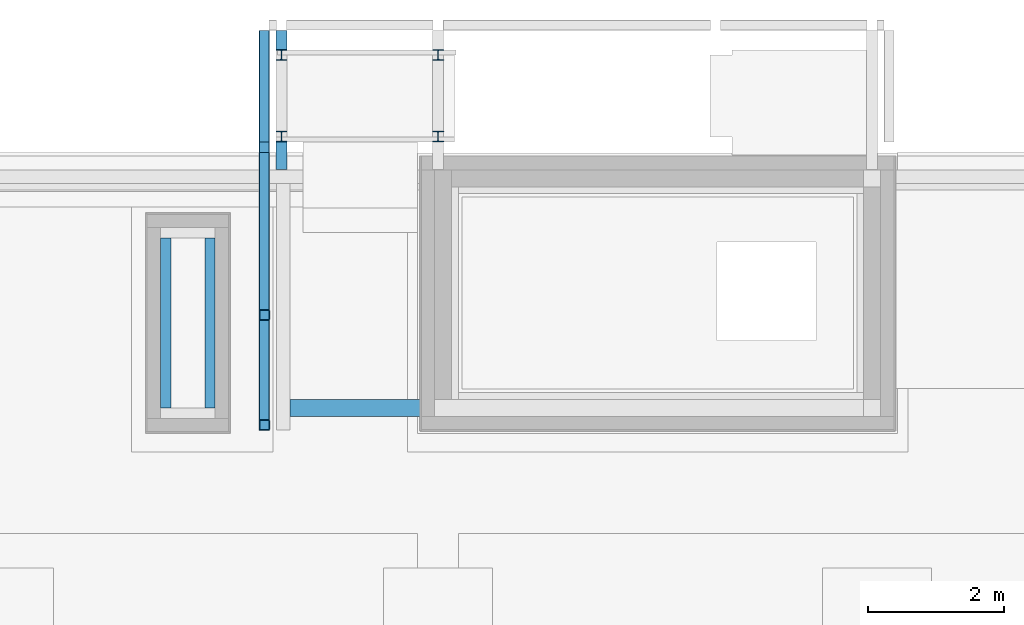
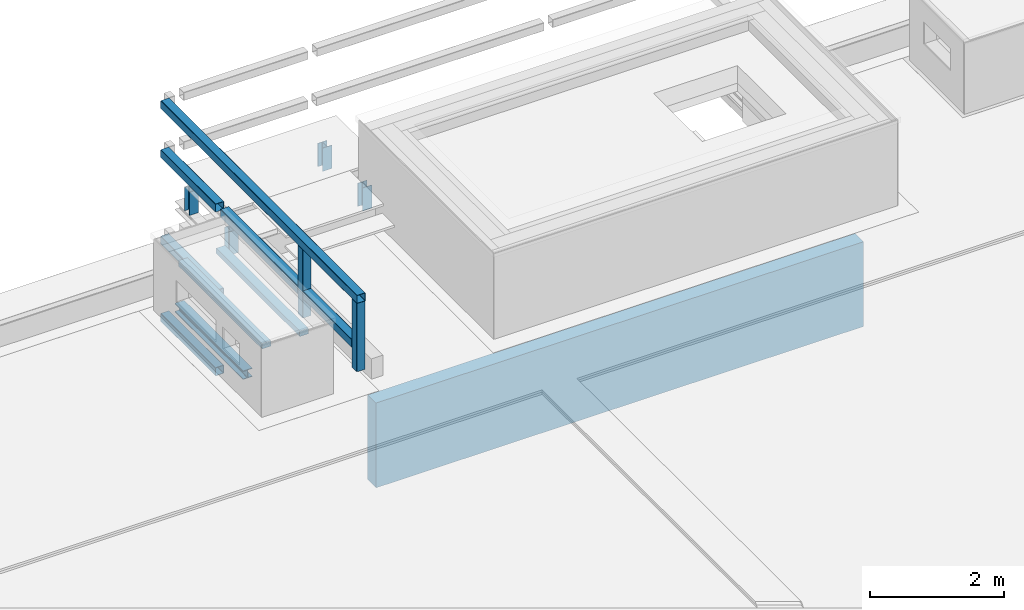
# One storey, part 1 of 8: 10 beams, 6 columns.
"""IFC2X3 building model written with IfcOpenShell, lengths in centimetres."""

from ifc_helpers import new_model, entity, si_unit, converted_unit, derived_unit, direction, frame, frame_2d, origin, place, context, subcontext, project, spatial, polyline, circle_curve, parameter, trimmed, segment, composite_curve, rectangle, i_section, outline, extrude, source, transform, mapped, material, type_object, type_shapes, element, save


model = new_model("IFC2X3")

# Units and contexts
model_context = context("Model", 3, precision=0.001, world=origin(), true_north=direction((6.12303176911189e-17, 1.0)))
body_context = subcontext(model_context, "Body", "Model", "MODEL_VIEW")
ifc_project = project(units=[si_unit("LENGTHUNIT", "METRE", prefix="CENTI"), si_unit("AREAUNIT", "SQUARE_METRE"), si_unit("VOLUMEUNIT", "CUBIC_METRE"), converted_unit("PLANEANGLEUNIT", "DEGREE", entity("IfcRatioMeasure", 0.0174532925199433), si_unit("PLANEANGLEUNIT", "RADIAN"), dimensions=[0, 0, 0, 0, 0, 0, 0]), si_unit("MASSUNIT", "GRAM", prefix="KILO"), derived_unit("MASSDENSITYUNIT", [(si_unit("MASSUNIT", "GRAM", prefix="KILO"), 1), (si_unit("LENGTHUNIT", "METRE"), -3)]), derived_unit("MOMENTOFINERTIAUNIT", [(si_unit("LENGTHUNIT", "METRE"), 4)]), si_unit("TIMEUNIT", "SECOND"), si_unit("FREQUENCYUNIT", "HERTZ"), si_unit("THERMODYNAMICTEMPERATUREUNIT", "DEGREE_CELSIUS"), derived_unit("THERMALTRANSMITTANCEUNIT", [(si_unit("MASSUNIT", "GRAM", prefix="KILO"), 1), (si_unit("THERMODYNAMICTEMPERATUREUNIT", "KELVIN"), -1), (si_unit("TIMEUNIT", "SECOND"), -3)]), derived_unit("VOLUMETRICFLOWRATEUNIT", [(si_unit("LENGTHUNIT", "METRE"), 3), (si_unit("TIMEUNIT", "SECOND"), -1)]), si_unit("ELECTRICCURRENTUNIT", "AMPERE"), si_unit("ELECTRICVOLTAGEUNIT", "VOLT"), si_unit("POWERUNIT", "WATT"), si_unit("FORCEUNIT", "NEWTON", prefix="KILO"), si_unit("ILLUMINANCEUNIT", "LUX"), si_unit("LUMINOUSFLUXUNIT", "LUMEN"), si_unit("LUMINOUSINTENSITYUNIT", "CANDELA"), derived_unit("USERDEFINED", [(si_unit("MASSUNIT", "GRAM", prefix="KILO"), -1), (si_unit("LENGTHUNIT", "METRE"), -2), (si_unit("TIMEUNIT", "SECOND"), 3), (si_unit("LUMINOUSFLUXUNIT", "LUMEN"), 1)]), derived_unit("LINEARVELOCITYUNIT", [(si_unit("LENGTHUNIT", "METRE"), 1), (si_unit("TIMEUNIT", "SECOND"), -1)]), si_unit("PRESSUREUNIT", "PASCAL"), derived_unit("USERDEFINED", [(si_unit("LENGTHUNIT", "METRE"), -2), (si_unit("MASSUNIT", "GRAM", prefix="KILO"), 1), (si_unit("TIMEUNIT", "SECOND"), -2)]), derived_unit("LINEARFORCEUNIT", [(si_unit("MASSUNIT", "GRAM", prefix="KILO"), 1), (si_unit("LENGTHUNIT", "METRE"), 1), (si_unit("TIMEUNIT", "SECOND"), -2), (si_unit("LENGTHUNIT", "METRE"), -1)]), derived_unit("PLANARFORCEUNIT", [(si_unit("MASSUNIT", "GRAM", prefix="KILO"), 1), (si_unit("LENGTHUNIT", "METRE"), 1), (si_unit("TIMEUNIT", "SECOND"), -2), (si_unit("LENGTHUNIT", "METRE"), -2)])], contexts=[model_context])

# Site, building, storey
site_placement = place(None, origin())
site = spatial("IfcSite", under=ifc_project, at=site_placement, Name="Default", CompositionType="ELEMENT")
building_placement = place(site_placement, origin())
building = spatial("IfcBuilding", under=site, at=building_placement, CompositionType="ELEMENT")
storey_placement = place(building_placement, frame((0.0, 0.0, 970.0)))
storey = spatial("IfcBuildingStorey", under=building, at=storey_placement, Name="Poziom 2K +9,70", CompositionType="ELEMENT", Elevation=970.0)

# Columns
ifc_material_1 = material(Name="Metal — stal — Stal")
column_type_1 = type_object("IfcColumnType", Name="STAL RK - Ksztaltowniki zamkniete kwadratowe_Słup:RK150x6", PredefinedType="COLUMN", material=ifc_material_1)
shared_shape_1 = source(origin(), body_context, "Body", "SweptSolid", [
    extrude(outline(composite_curve([segment(polyline([(-6.29999999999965, -7.50000000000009), (6.29999999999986, -7.50000000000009)]), True, "CONTINUOUS"), segment(trimmed(circle_curve(frame_2d((6.29999999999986, -6.29999999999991), x_axis=(1.0, 0.0)), 1.20000000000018), [parameter(270.0)], [parameter(360.0)], True, "PARAMETER"), True, "CONTINUOUS"), segment(polyline([(7.50000000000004, -6.29999999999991), (7.50000000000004, 6.29999999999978)]), True, "CONTINUOUS"), segment(trimmed(circle_curve(frame_2d((6.29999999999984, 6.29999999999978), x_axis=(1.0, 0.0)), 1.2000000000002), [parameter(360.0)], [parameter(89.9999999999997)], True, "PARAMETER"), True, "CONTINUOUS"), segment(polyline([(6.29999999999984, 7.49999999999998), (-6.30000000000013, 7.49999999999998)]), True, "CONTINUOUS"), segment(trimmed(circle_curve(frame_2d((-6.30000000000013, 6.30000000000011), x_axis=(1.0, 0.0)), 1.19999999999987), [parameter(89.9999999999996)], [parameter(180.0)], True, "PARAMETER"), True, "CONTINUOUS"), segment(polyline([(-7.5, 6.30000000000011), (-7.5, -6.29999999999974)]), True, "CONTINUOUS"), segment(trimmed(circle_curve(frame_2d((-6.29999999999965, -6.29999999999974), x_axis=(1.0, 0.0)), 1.20000000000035), [parameter(180.0)], [parameter(269.999999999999)], True, "PARAMETER"), True, "CONTINUOUS")], self_intersect=False), holes=[composite_curve([segment(trimmed(circle_curve(frame_2d((-6.30000000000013, 6.29999999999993), x_axis=(1.0, 0.0)), 0.599999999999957), [parameter(90.0000000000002)], [parameter(180.0)], True, "PARAMETER"), False, "CONTINUOUS"), segment(polyline([(-6.30000000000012, 6.89999999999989), (6.29999999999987, 6.89999999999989)]), True, "CONTINUOUS"), segment(trimmed(circle_curve(frame_2d((6.29999999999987, 6.29999999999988), x_axis=(1.0, 0.0)), 0.600000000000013), [parameter(359.999999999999)], [parameter(89.9999999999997)], True, "PARAMETER"), False, "CONTINUOUS"), segment(polyline([(6.89999999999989, 6.29999999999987), (6.89999999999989, -6.30000000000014)]), True, "CONTINUOUS"), segment(trimmed(circle_curve(frame_2d((6.2999999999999, -6.30000000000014), x_axis=(1.0, 0.0)), 0.599999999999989), [parameter(269.999999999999)], [parameter(360.0)], True, "PARAMETER"), False, "CONTINUOUS"), segment(polyline([(6.29999999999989, -6.90000000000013), (-6.3000000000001, -6.90000000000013)]), True, "CONTINUOUS"), segment(trimmed(circle_curve(frame_2d((-6.3000000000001, -6.30000000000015), x_axis=(1.0, 0.0)), 0.599999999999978), [parameter(180.0)], [parameter(270.0)], True, "PARAMETER"), False, "CONTINUOUS"), segment(polyline([(-6.90000000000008, -6.30000000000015), (-6.90000000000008, 6.29999999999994)]), True, "CONTINUOUS")], self_intersect=False)]), frame((0.0, 0.0, 1020.0)), (0.0, 0.0, 1.0), 125.0),
])
type_shapes(column_type_1, [shared_shape_1])
for number, where in (
    (1, (-1234.26501886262, 1891.95818451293, -970.0)),
    (2, (-1234.26501886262, 1730.45818451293, -970.0)),
):
    element("IfcColumn", number, at=place(storey_placement, frame(where)), inside=storey, type_object=column_type_1, material=ifc_material_1, Name="STAL RK - Ksztaltowniki zamkniete kwadratowe_Słup:RK150x6", ObjectType="STAL RK - Ksztaltowniki zamkniete kwadratowe_Słup:RK150x6", context=body_context, shape_type="MappedRepresentation", body=[
        mapped(shared_shape_1, transform((0.0, 0.0, 0.0), scale=1.0)),
    ])
column_type_2 = type_object("IfcColumnType", Name="Słup HE-A:HEA160", PredefinedType="COLUMN", material=ifc_material_1)
shared_shape_2 = source(origin(), body_context, "Body", "SweptSolid", [
    extrude(outline(composite_curve([segment(polyline([(6.7, -8.0), (7.6, -8.0)]), True, "CONTINUOUS"), segment(polyline([(7.6, -8.0), (7.6, 8.0)]), True, "CONTINUOUS"), segment(polyline([(7.6, 8.0), (6.7, 8.0)]), True, "CONTINUOUS"), segment(polyline([(6.7, 8.0), (6.7, 1.8)]), True, "CONTINUOUS"), segment(trimmed(circle_curve(frame_2d((5.2, 1.8), x_axis=(1.0, 0.0)), 1.5), [parameter(270.0)], [parameter(0.0)], True, "PARAMETER"), False, "CONTINUOUS"), segment(polyline([(5.2, 0.3), (-5.2, 0.3)]), True, "CONTINUOUS"), segment(trimmed(circle_curve(frame_2d((-5.2, 1.8), x_axis=(0.0, -1.0)), 1.5), [parameter(270.0)], [parameter(0.0)], True, "PARAMETER"), False, "CONTINUOUS"), segment(polyline([(-6.7, 1.8), (-6.7, 8.0)]), True, "CONTINUOUS"), segment(polyline([(-6.7, 8.0), (-7.6, 8.0)]), True, "CONTINUOUS"), segment(polyline([(-7.6, 8.0), (-7.6, -8.0)]), True, "CONTINUOUS"), segment(polyline([(-7.6, -8.0), (-6.7, -8.0)]), True, "CONTINUOUS"), segment(polyline([(-6.7, -8.0), (-6.7, -1.8)]), True, "CONTINUOUS"), segment(trimmed(circle_curve(frame_2d((-5.2, -1.8), x_axis=(-1.0, 0.0)), 1.5), [parameter(270.0)], [parameter(0.0)], True, "PARAMETER"), False, "CONTINUOUS"), segment(polyline([(-5.2, -0.299999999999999), (5.2, -0.299999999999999)]), True, "CONTINUOUS"), segment(trimmed(circle_curve(frame_2d((5.2, -1.8), x_axis=(0.0, 1.0)), 1.5), [parameter(270.0)], [parameter(0.0)], True, "PARAMETER"), False, "CONTINUOUS"), segment(polyline([(6.7, -1.8), (6.7, -8.0)]), True, "CONTINUOUS")], self_intersect=False)), frame((0.0, 0.0, 967.6), z_axis=(0.0, 0.0, 1.0), x_axis=(0.0, -1.0, 0.0)), (0.0, 0.0, 1.0), 42.4000000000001),
])
type_shapes(column_type_2, [shared_shape_2])
for number, where in (
    (3, (-1209.22475324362, 2273.8124511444, -970.0)),
    (4, (-1209.22475324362, 2154.0124511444, -970.0)),
    (5, (-979.094309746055, 2273.8124511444, -970.0)),
    (6, (-979.094309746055, 2154.0124511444, -970.0)),
):
    element("IfcColumn", number, at=place(storey_placement, frame(where)), inside=storey, type_object=column_type_2, Name="Słup HE-A:HEA160", ObjectType="Słup HE-A:HEA160", context=body_context, shape_type="MappedRepresentation", body=[
        mapped(shared_shape_2, transform((0.0, 0.0, 0.0), scale=1.0)),
    ])

# Beams
ifc_material_2 = material(Name="_Beton C30/37")
beam_type_1 = type_object("IfcBeamType", Name="Beton-belka prostokątna:BELKA 190x25", PredefinedType="NOTDEFINED")
beam_1_placement = place(storey_placement, frame((-1209.2650935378, 1755.62745161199, 0.0)))
element("IfcBeam", 7, at=beam_1_placement, inside=storey, type_object=beam_type_1, material=ifc_material_2, Name="Beton-belka prostokątna:BELKA 190x25", ObjectType="Beton-belka prostokątna:BELKA 190x25", context=body_context, shape_type="SweptSolid", body=[
    extrude(rectangle(XDim=155.0, YDim=25.000000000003, at=frame_2d((0.0, 8.66862137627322e-13), x_axis=(1.0, 0.0))), frame((12.4999999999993, 0.0, -112.5), z_axis=(1.0, 0.0, 0.0), x_axis=(0.0, 0.0, -1.0)), (0.0, 0.0, 1.0), 842.262041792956),
])
beam_type_2 = type_object("IfcBeamType", Name="Beton-belka prostokątna:wieniec 10x15", PredefinedType="NOTDEFINED")
for number, where, z_axis, x_axis in (
    (8, (-1114.26517166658, 1755.12745205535, -142.0), (0.0, 0.0, 1.0), (0.0, 1.0, 0.0)),
    (9, (-1049.26511325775, 1755.12745205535, -142.0), (0.0, 0.0, 1.0), (0.0, 1.0, 0.0)),
):
    element("IfcBeam", number, at=place(storey_placement, frame(where, z_axis=z_axis, x_axis=x_axis)), inside=storey, type_object=beam_type_2, material=ifc_material_2, Name="Beton-belka prostokątna:wieniec 10x15", ObjectType="Beton-belka prostokątna:wieniec 10x15", context=body_context, shape_type="SweptSolid", body=[
        extrude(rectangle(XDim=10.0000000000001, YDim=15.0000000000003, at=frame_2d((-1.08357767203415e-13, 2.16715534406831e-13), x_axis=(1.0, 0.0))), frame((0.0, 265.0, 270.0), z_axis=(1.0, 0.0, 0.0), x_axis=(0.0, 0.0, -1.0)), (0.0, 0.0, 1.0), 250.000146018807),
    ])
ifc_material_3 = material(Name="Stal konstrukcyjna - S235")
beam_type_3 = type_object("IfcBeamType", Name="STAL RK - Ksztaltowniki zamkniete kwadratowe:RK150x6", PredefinedType="NOTDEFINED")
beam_2_placement = place(storey_placement, frame((-1234.15433612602, 2309.95606606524, -199.0), z_axis=(0.0, 0.0, 1.0), x_axis=(0.0, -1.0, 0.0)))
element("IfcBeam", 10, at=beam_2_placement, inside=storey, type_object=beam_type_3, material=ifc_material_3, Name="STAL RK - Ksztaltowniki zamkniete kwadratowe:RK150x6", ObjectType="STAL RK - Ksztaltowniki zamkniete kwadratowe:RK150x6", context=body_context, shape_type="SweptSolid", body=[
    extrude(outline(composite_curve([segment(trimmed(circle_curve(frame_2d((-6.30000000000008, -6.30000000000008), x_axis=(1.0, 0.0)), 1.2), [parameter(180.0)], [parameter(270.0)], True, "PARAMETER"), True, "CONTINUOUS"), segment(polyline([(-6.29999999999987, -7.50000000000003), (6.30000000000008, -7.50000000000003)]), True, "CONTINUOUS"), segment(trimmed(circle_curve(frame_2d((6.29999999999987, -6.30000000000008), x_axis=(1.0, 0.0)), 1.19999999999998), [parameter(270.0)], [parameter(360.0)], True, "PARAMETER"), True, "CONTINUOUS"), segment(polyline([(7.50000000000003, -6.30000000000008), (7.50000000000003, 6.29999999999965)]), True, "CONTINUOUS"), segment(trimmed(circle_curve(frame_2d((6.29999999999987, 6.29999999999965), x_axis=(1.0, 0.0)), 1.20000000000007), [parameter(360.0)], [parameter(89.9999999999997)], True, "PARAMETER"), True, "CONTINUOUS"), segment(polyline([(6.29999999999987, 7.4999999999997), (-6.30000000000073, 7.4999999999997)]), True, "CONTINUOUS"), segment(trimmed(circle_curve(frame_2d((-6.30000000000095, 6.30000000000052), x_axis=(1.0, 0.0)), 1.19999999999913), [parameter(89.9999999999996)], [parameter(179.999999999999)], True, "PARAMETER"), True, "CONTINUOUS"), segment(polyline([(-7.50000000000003, 6.30000000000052), (-7.50000000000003, -6.30000000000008)]), True, "CONTINUOUS")], self_intersect=False), holes=[composite_curve([segment(polyline([(-6.89999999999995, -6.30000000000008), (-6.89999999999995, 6.30000000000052)]), True, "CONTINUOUS"), segment(trimmed(circle_curve(frame_2d((-6.30000000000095, 6.30000000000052), x_axis=(1.0, 0.0)), 0.59999999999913), [parameter(90.0000000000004)], [parameter(180.0)], True, "PARAMETER"), False, "CONTINUOUS"), segment(polyline([(-6.30000000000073, 6.89999999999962), (6.29999999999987, 6.89999999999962)]), True, "CONTINUOUS"), segment(trimmed(circle_curve(frame_2d((6.29999999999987, 6.29999999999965), x_axis=(1.0, 0.0)), 0.600000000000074), [parameter(4.07110999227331e-13)], [parameter(90.0000000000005)], True, "PARAMETER"), False, "CONTINUOUS"), segment(polyline([(6.89999999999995, 6.29999999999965), (6.89999999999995, -6.30000000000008)]), True, "CONTINUOUS"), segment(trimmed(circle_curve(frame_2d((6.29999999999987, -6.30000000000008), x_axis=(1.0, 0.0)), 0.59999999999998), [parameter(270.0)], [parameter(5.08888749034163e-13)], True, "PARAMETER"), False, "CONTINUOUS"), segment(polyline([(6.30000000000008, -6.90000000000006), (-6.29999999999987, -6.90000000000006)]), True, "CONTINUOUS"), segment(trimmed(circle_curve(frame_2d((-6.30000000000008, -6.30000000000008), x_axis=(1.0, 0.0)), 0.600000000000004), [parameter(180.0)], [parameter(270.0)], True, "PARAMETER"), False, "CONTINUOUS")], self_intersect=False)]), frame((0.0436149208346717, -0.26000000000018, -7.50000000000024), z_axis=(1.0, 0.0, 0.0), x_axis=(0.0, -1.0, 0.0)), (0.0, 0.0, 1.0), 164.0),
])
beam_3_placement = place(storey_placement, frame((-1234.15433612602, 2309.95606606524, -57.9999979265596), z_axis=(0.0, 0.0, 1.0), x_axis=(0.0, -1.0, 0.0)))
element("IfcBeam", 11, at=beam_3_placement, inside=storey, type_object=beam_type_3, material=ifc_material_3, Name="STAL RK - Ksztaltowniki zamkniete kwadratowe:RK150x6", ObjectType="STAL RK - Ksztaltowniki zamkniete kwadratowe:RK150x6", context=body_context, shape_type="SweptSolid", body=[
    extrude(outline(composite_curve([segment(trimmed(circle_curve(frame_2d((-6.30000000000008, -6.29999999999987), x_axis=(1.0, 0.0)), 1.2), [parameter(180.0)], [parameter(270.0)], True, "PARAMETER"), True, "CONTINUOUS"), segment(polyline([(-6.29999999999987, -7.49999999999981), (6.30000000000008, -7.49999999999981)]), True, "CONTINUOUS"), segment(trimmed(circle_curve(frame_2d((6.29999999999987, -6.29999999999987), x_axis=(1.0, 0.0)), 1.19999999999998), [parameter(270.0)], [parameter(360.0)], True, "PARAMETER"), True, "CONTINUOUS"), segment(polyline([(7.50000000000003, -6.29999999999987), (7.50000000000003, 6.29999999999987)]), True, "CONTINUOUS"), segment(trimmed(circle_curve(frame_2d((6.29999999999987, 6.29999999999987), x_axis=(1.0, 0.0)), 1.20000000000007), [parameter(360.0)], [parameter(89.9999999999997)], True, "PARAMETER"), True, "CONTINUOUS"), segment(polyline([(6.29999999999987, 7.49999999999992), (-6.30000000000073, 7.49999999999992)]), True, "CONTINUOUS"), segment(trimmed(circle_curve(frame_2d((-6.30000000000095, 6.30000000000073), x_axis=(1.0, 0.0)), 1.19999999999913), [parameter(89.9999999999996)], [parameter(179.999999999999)], True, "PARAMETER"), True, "CONTINUOUS"), segment(polyline([(-7.50000000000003, 6.30000000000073), (-7.50000000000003, -6.29999999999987)]), True, "CONTINUOUS")], self_intersect=False), holes=[composite_curve([segment(polyline([(-6.89999999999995, -6.29999999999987), (-6.89999999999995, 6.30000000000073)]), True, "CONTINUOUS"), segment(trimmed(circle_curve(frame_2d((-6.30000000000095, 6.30000000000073), x_axis=(1.0, 0.0)), 0.59999999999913), [parameter(90.0000000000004)], [parameter(180.0)], True, "PARAMETER"), False, "CONTINUOUS"), segment(polyline([(-6.30000000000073, 6.89999999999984), (6.29999999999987, 6.89999999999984)]), True, "CONTINUOUS"), segment(trimmed(circle_curve(frame_2d((6.29999999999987, 6.29999999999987), x_axis=(1.0, 0.0)), 0.600000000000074), [parameter(4.07110999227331e-13)], [parameter(90.0000000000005)], True, "PARAMETER"), False, "CONTINUOUS"), segment(polyline([(6.89999999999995, 6.29999999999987), (6.89999999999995, -6.29999999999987)]), True, "CONTINUOUS"), segment(trimmed(circle_curve(frame_2d((6.29999999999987, -6.29999999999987), x_axis=(1.0, 0.0)), 0.59999999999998), [parameter(270.0)], [parameter(5.08888749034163e-13)], True, "PARAMETER"), False, "CONTINUOUS"), segment(polyline([(6.30000000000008, -6.89999999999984), (-6.29999999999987, -6.89999999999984)]), True, "CONTINUOUS"), segment(trimmed(circle_curve(frame_2d((-6.30000000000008, -6.29999999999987), x_axis=(1.0, 0.0)), 0.600000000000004), [parameter(180.0)], [parameter(270.0)], True, "PARAMETER"), False, "CONTINUOUS")], self_intersect=False)]), frame((0.0436149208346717, -0.26000000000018, -7.50000000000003), z_axis=(1.0, 0.0, 0.0), x_axis=(0.0, -1.0, 0.0)), (0.0, 0.0, 1.0), 164.0),
])
beam_4_placement = place(storey_placement, frame((-1234.15433612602, 2309.95606606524, 100.000002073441), z_axis=(0.0, 0.0, 1.0), x_axis=(0.0, -1.0, 0.0)))
element("IfcBeam", 12, at=beam_4_placement, inside=storey, type_object=beam_type_3, material=ifc_material_3, Name="STAL RK - Ksztaltowniki zamkniete kwadratowe:RK150x6", ObjectType="STAL RK - Ksztaltowniki zamkniete kwadratowe:RK150x6", context=body_context, shape_type="SweptSolid", body=[
    extrude(outline(composite_curve([segment(trimmed(circle_curve(frame_2d((-6.30000000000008, -6.29999999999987), x_axis=(1.0, 0.0)), 1.2), [parameter(180.0)], [parameter(270.0)], True, "PARAMETER"), True, "CONTINUOUS"), segment(polyline([(-6.29999999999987, -7.50000000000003), (6.30000000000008, -7.50000000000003)]), True, "CONTINUOUS"), segment(trimmed(circle_curve(frame_2d((6.29999999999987, -6.30000000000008), x_axis=(1.0, 0.0)), 1.19999999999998), [parameter(270.0)], [parameter(360.0)], True, "PARAMETER"), True, "CONTINUOUS"), segment(polyline([(7.50000000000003, -6.30000000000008), (7.50000000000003, 6.29999999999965)]), True, "CONTINUOUS"), segment(trimmed(circle_curve(frame_2d((6.29999999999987, 6.29999999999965), x_axis=(1.0, 0.0)), 1.20000000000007), [parameter(360.0)], [parameter(89.9999999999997)], True, "PARAMETER"), True, "CONTINUOUS"), segment(polyline([(6.29999999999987, 7.49999999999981), (-6.30000000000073, 7.49999999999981)]), True, "CONTINUOUS"), segment(trimmed(circle_curve(frame_2d((-6.30000000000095, 6.30000000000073), x_axis=(1.0, 0.0)), 1.19999999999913), [parameter(89.9999999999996)], [parameter(179.999999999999)], True, "PARAMETER"), True, "CONTINUOUS"), segment(polyline([(-7.50000000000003, 6.30000000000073), (-7.50000000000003, -6.29999999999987)]), True, "CONTINUOUS")], self_intersect=False), holes=[composite_curve([segment(polyline([(-6.89999999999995, -6.29999999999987), (-6.89999999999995, 6.30000000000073)]), True, "CONTINUOUS"), segment(trimmed(circle_curve(frame_2d((-6.30000000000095, 6.30000000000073), x_axis=(1.0, 0.0)), 0.59999999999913), [parameter(90.0000000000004)], [parameter(180.0)], True, "PARAMETER"), False, "CONTINUOUS"), segment(polyline([(-6.30000000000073, 6.89999999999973), (6.29999999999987, 6.89999999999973)]), True, "CONTINUOUS"), segment(trimmed(circle_curve(frame_2d((6.29999999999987, 6.29999999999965), x_axis=(1.0, 0.0)), 0.600000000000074), [parameter(4.07110999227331e-13)], [parameter(90.0000000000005)], True, "PARAMETER"), False, "CONTINUOUS"), segment(polyline([(6.89999999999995, 6.29999999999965), (6.89999999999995, -6.30000000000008)]), True, "CONTINUOUS"), segment(trimmed(circle_curve(frame_2d((6.29999999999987, -6.30000000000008), x_axis=(1.0, 0.0)), 0.59999999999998), [parameter(270.0)], [parameter(5.08888749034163e-13)], True, "PARAMETER"), False, "CONTINUOUS"), segment(polyline([(6.30000000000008, -6.89999999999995), (-6.29999999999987, -6.89999999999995)]), True, "CONTINUOUS"), segment(trimmed(circle_curve(frame_2d((-6.30000000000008, -6.29999999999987), x_axis=(1.0, 0.0)), 0.600000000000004), [parameter(180.0)], [parameter(270.0)], True, "PARAMETER"), False, "CONTINUOUS")], self_intersect=False)]), frame((0.0436149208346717, -0.26000000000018, -7.50000000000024), z_axis=(1.0, 0.0, 0.0), x_axis=(0.0, -1.0, 0.0)), (0.0, 0.0, 1.0), 164.0),
])
beam_5_placement = place(storey_placement, frame((-1234.15433612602, 2309.41468189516, 190.0), z_axis=(0.0, 0.0, 1.0), x_axis=(0.0, -1.0, 0.0)))
element("IfcBeam", 13, at=beam_5_placement, inside=storey, type_object=beam_type_3, material=ifc_material_3, Name="STAL RK - Ksztaltowniki zamkniete kwadratowe:RK150x6", ObjectType="STAL RK - Ksztaltowniki zamkniete kwadratowe:RK150x6", context=body_context, shape_type="SweptSolid", body=[
    extrude(outline(composite_curve([segment(trimmed(circle_curve(frame_2d((-6.29999999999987, -6.29999999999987), x_axis=(1.0, 0.0)), 1.2), [parameter(180.0)], [parameter(270.0)], True, "PARAMETER"), True, "CONTINUOUS"), segment(polyline([(-6.29999999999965, -7.50000000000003), (6.3000000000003, -7.50000000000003)]), True, "CONTINUOUS"), segment(trimmed(circle_curve(frame_2d((6.30000000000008, -6.30000000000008), x_axis=(1.0, 0.0)), 1.19999999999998), [parameter(270.0)], [parameter(360.0)], True, "PARAMETER"), True, "CONTINUOUS"), segment(polyline([(7.50000000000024, -6.30000000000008), (7.50000000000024, 6.29999999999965)]), True, "CONTINUOUS"), segment(trimmed(circle_curve(frame_2d((6.30000000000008, 6.29999999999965), x_axis=(1.0, 0.0)), 1.20000000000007), [parameter(360.0)], [parameter(89.9999999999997)], True, "PARAMETER"), True, "CONTINUOUS"), segment(polyline([(6.30000000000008, 7.49999999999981), (-6.30000000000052, 7.49999999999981)]), True, "CONTINUOUS"), segment(trimmed(circle_curve(frame_2d((-6.30000000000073, 6.30000000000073), x_axis=(1.0, 0.0)), 1.19999999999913), [parameter(89.9999999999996)], [parameter(179.999999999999)], True, "PARAMETER"), True, "CONTINUOUS"), segment(polyline([(-7.49999999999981, 6.30000000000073), (-7.49999999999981, -6.29999999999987)]), True, "CONTINUOUS")], self_intersect=False), holes=[composite_curve([segment(polyline([(-6.89999999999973, -6.29999999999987), (-6.89999999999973, 6.30000000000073)]), True, "CONTINUOUS"), segment(trimmed(circle_curve(frame_2d((-6.30000000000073, 6.30000000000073), x_axis=(1.0, 0.0)), 0.59999999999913), [parameter(90.0000000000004)], [parameter(180.0)], True, "PARAMETER"), False, "CONTINUOUS"), segment(polyline([(-6.30000000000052, 6.89999999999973), (6.30000000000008, 6.89999999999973)]), True, "CONTINUOUS"), segment(trimmed(circle_curve(frame_2d((6.30000000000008, 6.29999999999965), x_axis=(1.0, 0.0)), 0.600000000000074), [parameter(4.07110999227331e-13)], [parameter(90.0000000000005)], True, "PARAMETER"), False, "CONTINUOUS"), segment(polyline([(6.90000000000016, 6.29999999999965), (6.90000000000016, -6.30000000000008)]), True, "CONTINUOUS"), segment(trimmed(circle_curve(frame_2d((6.30000000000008, -6.30000000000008), x_axis=(1.0, 0.0)), 0.59999999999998), [parameter(270.0)], [parameter(5.08888749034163e-13)], True, "PARAMETER"), False, "CONTINUOUS"), segment(polyline([(6.3000000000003, -6.89999999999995), (-6.29999999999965, -6.89999999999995)]), True, "CONTINUOUS"), segment(trimmed(circle_curve(frame_2d((-6.29999999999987, -6.29999999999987), x_axis=(1.0, 0.0)), 0.600000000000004), [parameter(180.0)], [parameter(270.0)], True, "PARAMETER"), False, "CONTINUOUS")], self_intersect=False)]), frame((0.0, -0.259999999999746, -7.50000000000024), z_axis=(1.0, 0.0, 0.0), x_axis=(0.0, -1.0, 0.0)), (0.0, 0.0, 1.0), 587.0),
])
beam_6_placement = place(storey_placement, frame((-1234.15433612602, 2130.81245114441, 100.000002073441), z_axis=(0.0, 0.0, 1.0), x_axis=(0.0, -1.0, 0.0)))
element("IfcBeam", 14, at=beam_6_placement, inside=storey, type_object=beam_type_3, material=ifc_material_3, Name="STAL RK - Ksztaltowniki zamkniete kwadratowe:RK150x6", ObjectType="STAL RK - Ksztaltowniki zamkniete kwadratowe:RK150x6", context=body_context, shape_type="SweptSolid", body=[
    extrude(outline(composite_curve([segment(trimmed(circle_curve(frame_2d((-6.29999999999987, -6.29999999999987), x_axis=(1.0, 0.0)), 1.2), [parameter(180.0)], [parameter(270.0)], True, "PARAMETER"), True, "CONTINUOUS"), segment(polyline([(-6.29999999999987, -7.50000000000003), (6.30000000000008, -7.50000000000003)]), True, "CONTINUOUS"), segment(trimmed(circle_curve(frame_2d((6.30000000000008, -6.30000000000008), x_axis=(1.0, 0.0)), 1.19999999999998), [parameter(270.0)], [parameter(360.0)], True, "PARAMETER"), True, "CONTINUOUS"), segment(polyline([(7.50000000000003, -6.30000000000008), (7.50000000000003, 6.29999999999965)]), True, "CONTINUOUS"), segment(trimmed(circle_curve(frame_2d((6.30000000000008, 6.29999999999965), x_axis=(1.0, 0.0)), 1.20000000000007), [parameter(360.0)], [parameter(89.9999999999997)], True, "PARAMETER"), True, "CONTINUOUS"), segment(polyline([(6.29999999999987, 7.49999999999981), (-6.30000000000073, 7.49999999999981)]), True, "CONTINUOUS"), segment(trimmed(circle_curve(frame_2d((-6.30000000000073, 6.30000000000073), x_axis=(1.0, 0.0)), 1.19999999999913), [parameter(89.9999999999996)], [parameter(179.999999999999)], True, "PARAMETER"), True, "CONTINUOUS"), segment(polyline([(-7.50000000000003, 6.30000000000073), (-7.50000000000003, -6.29999999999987)]), True, "CONTINUOUS")], self_intersect=False), holes=[composite_curve([segment(polyline([(-6.89999999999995, -6.29999999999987), (-6.89999999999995, 6.30000000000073)]), True, "CONTINUOUS"), segment(trimmed(circle_curve(frame_2d((-6.30000000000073, 6.30000000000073), x_axis=(1.0, 0.0)), 0.59999999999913), [parameter(90.0000000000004)], [parameter(180.0)], True, "PARAMETER"), False, "CONTINUOUS"), segment(polyline([(-6.30000000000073, 6.89999999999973), (6.29999999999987, 6.89999999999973)]), True, "CONTINUOUS"), segment(trimmed(circle_curve(frame_2d((6.30000000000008, 6.29999999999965), x_axis=(1.0, 0.0)), 0.600000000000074), [parameter(4.07110999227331e-13)], [parameter(90.0000000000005)], True, "PARAMETER"), False, "CONTINUOUS"), segment(polyline([(6.89999999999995, 6.29999999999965), (6.89999999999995, -6.30000000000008)]), True, "CONTINUOUS"), segment(trimmed(circle_curve(frame_2d((6.30000000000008, -6.30000000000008), x_axis=(1.0, 0.0)), 0.59999999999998), [parameter(270.0)], [parameter(5.08888749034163e-13)], True, "PARAMETER"), False, "CONTINUOUS"), segment(polyline([(6.30000000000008, -6.89999999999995), (-6.29999999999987, -6.89999999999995)]), True, "CONTINUOUS"), segment(trimmed(circle_curve(frame_2d((-6.29999999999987, -6.29999999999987), x_axis=(1.0, 0.0)), 0.600000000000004), [parameter(180.0)], [parameter(270.0)], True, "PARAMETER"), False, "CONTINUOUS")], self_intersect=False)]), frame((0.0, -0.259999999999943, -7.50000000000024), z_axis=(1.0, 0.0, 0.0), x_axis=(0.0, -1.0, 0.0)), (0.0, 0.0, 1.0), 231.5),
])
beam_7_placement = place(storey_placement, frame((-1234.15433612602, 1884.26245114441, 100.000002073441), z_axis=(0.0, 0.0, 1.0), x_axis=(0.0, -1.0, 0.0)))
element("IfcBeam", 15, at=beam_7_placement, inside=storey, type_object=beam_type_3, material=ifc_material_3, Name="STAL RK - Ksztaltowniki zamkniete kwadratowe:RK150x6", ObjectType="STAL RK - Ksztaltowniki zamkniete kwadratowe:RK150x6", context=body_context, shape_type="SweptSolid", body=[
    extrude(outline(composite_curve([segment(trimmed(circle_curve(frame_2d((-6.3000000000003, -6.29999999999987), x_axis=(1.0, 0.0)), 1.2), [parameter(180.0)], [parameter(270.0)], True, "PARAMETER"), True, "CONTINUOUS"), segment(polyline([(-6.29999999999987, -7.50000000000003), (6.30000000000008, -7.50000000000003)]), True, "CONTINUOUS"), segment(trimmed(circle_curve(frame_2d((6.29999999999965, -6.30000000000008), x_axis=(1.0, 0.0)), 1.19999999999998), [parameter(270.0)], [parameter(360.0)], True, "PARAMETER"), True, "CONTINUOUS"), segment(polyline([(7.50000000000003, -6.30000000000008), (7.50000000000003, 6.29999999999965)]), True, "CONTINUOUS"), segment(trimmed(circle_curve(frame_2d((6.29999999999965, 6.29999999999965), x_axis=(1.0, 0.0)), 1.20000000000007), [parameter(360.0)], [parameter(89.9999999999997)], True, "PARAMETER"), True, "CONTINUOUS"), segment(polyline([(6.29999999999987, 7.49999999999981), (-6.30000000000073, 7.49999999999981)]), True, "CONTINUOUS"), segment(trimmed(circle_curve(frame_2d((-6.30000000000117, 6.30000000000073), x_axis=(1.0, 0.0)), 1.19999999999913), [parameter(89.9999999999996)], [parameter(179.999999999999)], True, "PARAMETER"), True, "CONTINUOUS"), segment(polyline([(-7.50000000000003, 6.30000000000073), (-7.50000000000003, -6.29999999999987)]), True, "CONTINUOUS")], self_intersect=False), holes=[composite_curve([segment(polyline([(-6.89999999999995, -6.29999999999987), (-6.89999999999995, 6.30000000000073)]), True, "CONTINUOUS"), segment(trimmed(circle_curve(frame_2d((-6.30000000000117, 6.30000000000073), x_axis=(1.0, 0.0)), 0.59999999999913), [parameter(90.0000000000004)], [parameter(180.0)], True, "PARAMETER"), False, "CONTINUOUS"), segment(polyline([(-6.30000000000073, 6.89999999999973), (6.29999999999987, 6.89999999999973)]), True, "CONTINUOUS"), segment(trimmed(circle_curve(frame_2d((6.29999999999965, 6.29999999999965), x_axis=(1.0, 0.0)), 0.600000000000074), [parameter(4.07110999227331e-13)], [parameter(90.0000000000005)], True, "PARAMETER"), False, "CONTINUOUS"), segment(polyline([(6.89999999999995, 6.29999999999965), (6.89999999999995, -6.30000000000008)]), True, "CONTINUOUS"), segment(trimmed(circle_curve(frame_2d((6.29999999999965, -6.30000000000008), x_axis=(1.0, 0.0)), 0.59999999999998), [parameter(270.0)], [parameter(5.08888749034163e-13)], True, "PARAMETER"), False, "CONTINUOUS"), segment(polyline([(6.30000000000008, -6.89999999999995), (-6.29999999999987, -6.89999999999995)]), True, "CONTINUOUS"), segment(trimmed(circle_curve(frame_2d((-6.3000000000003, -6.29999999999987), x_axis=(1.0, 0.0)), 0.600000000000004), [parameter(180.0)], [parameter(270.0)], True, "PARAMETER"), False, "CONTINUOUS")], self_intersect=False)]), frame((0.0, -0.26000000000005, -7.50000000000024), z_axis=(1.0, 0.0, 0.0), x_axis=(0.0, -1.0, 0.0)), (0.0, 0.0, 1.0), 146.4),
])
beam_type_4 = type_object("IfcBeamType", Name="HE-B:HEB160", PredefinedType="NOTDEFINED")
beam_8_placement = place(storey_placement, frame((-1209.22475324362, 2309.7124511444, -189.0), z_axis=(0.0, 0.0, 1.0), x_axis=(0.0, -1.0, 0.0)))
element("IfcBeam", 16, at=beam_8_placement, inside=storey, type_object=beam_type_4, material=ifc_material_3, Name="HE-B:HEB160", ObjectType="HE-B:HEB160", context=body_context, shape_type="SweptSolid", body=[
    extrude(i_section(OverallWidth=16.0, OverallDepth=16.0, WebThickness=0.800000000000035, FlangeThickness=1.30000000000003, FilletRadius=1.50000000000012, at=frame_2d((2.1627144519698e-13, 3.24629212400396e-13), x_axis=(0.0, 1.0))), frame((-0.220000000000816, 0.0, -8.0), z_axis=(1.0, 0.0, 0.0), x_axis=(0.0, 0.0, -1.0)), (0.0, 0.0, 1.0), 204.22),
])

save(model, "model.ifc")
